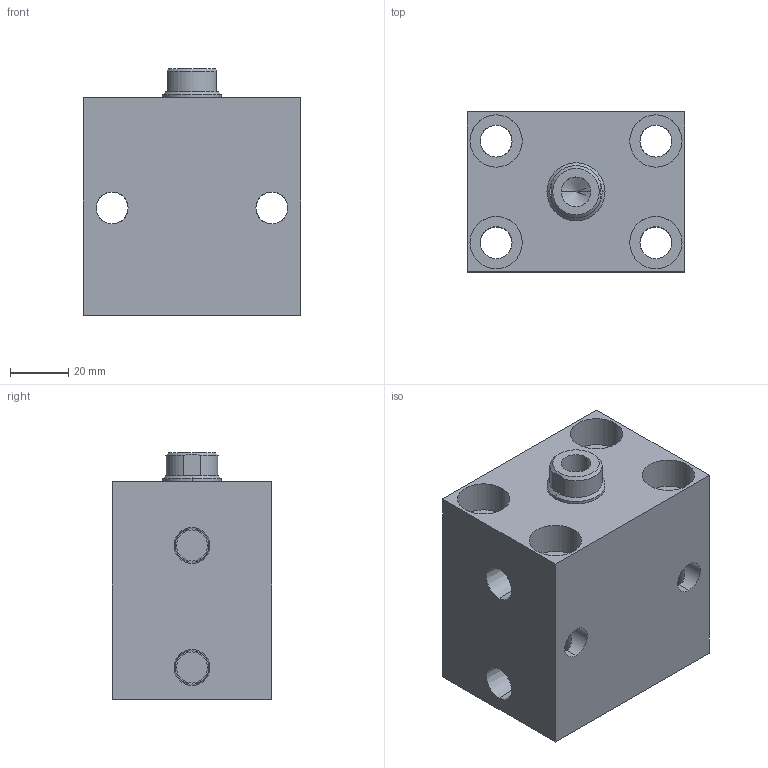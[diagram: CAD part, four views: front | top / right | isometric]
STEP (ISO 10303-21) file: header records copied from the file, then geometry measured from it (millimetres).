
FILE_DESCRIPTION (( 'STEP AP203' ), '1' );
FILE_NAME ('HBC-32D-25N装配体.STEP', '2019-11-29T08:56:06', ( '微软用户' ), ( '微软中国' ), 'SwSTEP 2.0', 'SolidWorks 2012', '' );
FILE_SCHEMA (( 'CONFIG_CONTROL_DESIGN' ));
Length unit declared in the file: millimetre
Products named in the file (3): HBC-32D-25N活塞杆; HBC-32D-25N蚾饜极; HBC-32D-25N掛极
Assembly tree (2 placements, depth 2):
  HBC-32D-25N蚾饜极
    HBC-32D-25N掛极
    HBC-32D-25N活塞杆
Bounding box: 75 x 55 x 85 mm (x, y, z)
Volume: 252771.8 mm3; surface area: 54735.2 mm2
Topology: 2 solids, 2 shells, 85 faces, 202 edges, 123 vertices
Faces by surface type: cylinder 52, plane 23, cone 10
Entity records: 2793 total; most frequent: CARTESIAN_POINT 533, DIRECTION 430, ORIENTED_EDGE 400, EDGE_CURVE 200, AXIS2_PLACEMENT_3D 176, VERTEX_POINT 123, EDGE_LOOP 109, CIRCLE 86
